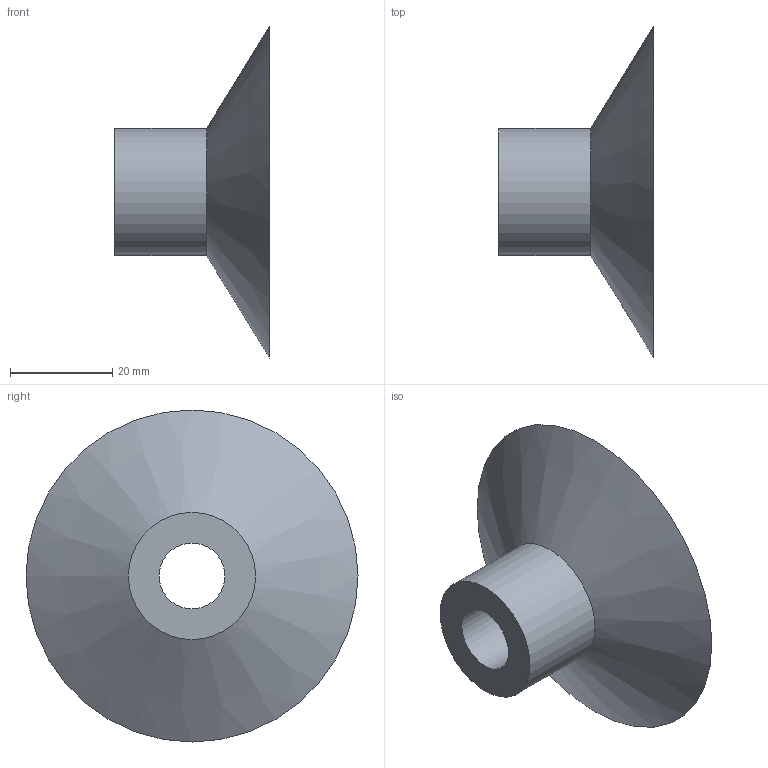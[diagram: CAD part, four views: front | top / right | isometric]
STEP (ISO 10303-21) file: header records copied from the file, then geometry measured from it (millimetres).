
FILE_DESCRIPTION((''),'2;1');
FILE_NAME('S:\Technik\Konstruktion\CAD-Daten\Kundenmodelle\126.065.019_Kd.stp','2010-10-06T12:33:42',('JGarcia-Martinez'),(''),'Autodesk Inventor 2009','Autodesk Inventor 2009','');
FILE_SCHEMA(('AUTOMOTIVE_DESIGN { 1 0 10303 214 1 1 1 1 }'));
Length unit declared in the file: millimetre
Products named in the file (1): 126.065
Bounding box: 30.3 x 65 x 65 mm (x, y, z)
Volume: 25618.4 mm3; surface area: 9501.6 mm2
Topology: 1 solids, 1 shells, 5 faces, 8 edges, 5 vertices
Faces by surface type: plane 2, cylinder 2, cone 1
Full cylindrical faces by diameter (mm): 12.9 x1, 24.9 x1
Entity records: 134 total; most frequent: DIRECTION 22, CARTESIAN_POINT 16, AXIS2_PLACEMENT_3D 11, ORIENTED_EDGE 10, EDGE_LOOP 10, VERTEX_POINT 5, CIRCLE 5, EDGE_CURVE 5
